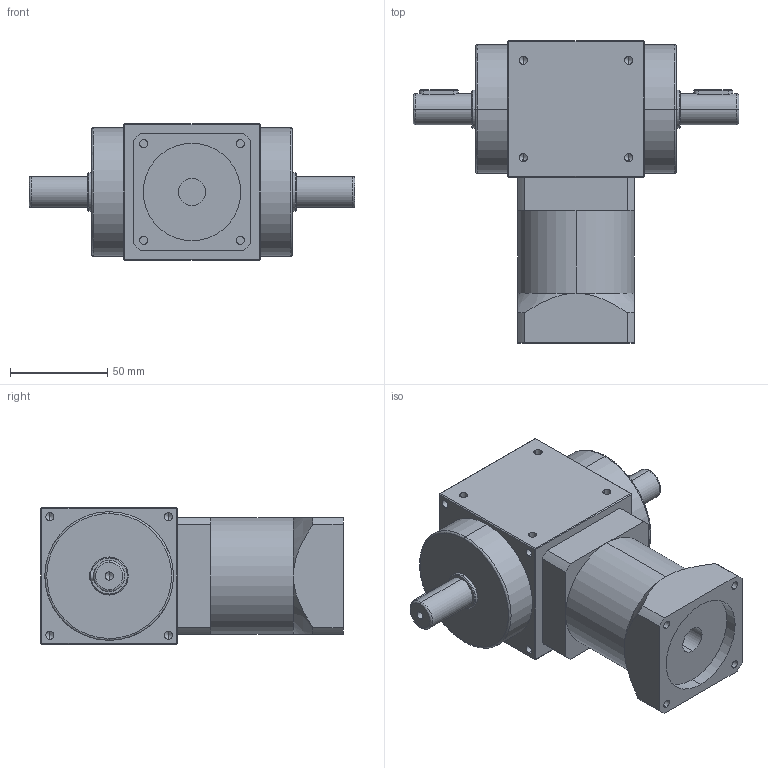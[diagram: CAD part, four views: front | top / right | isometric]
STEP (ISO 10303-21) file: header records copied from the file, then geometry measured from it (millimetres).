
FILE_DESCRIPTION (( 'STEP AP214' ), '1' );
FILE_NAME ('RXW070A-L1-2P-400W.STEP', '2020-12-04T01:55:56', ( '微软用户' ), ( '微软中国' ), 'SwSTEP 2.0', 'SolidWorks 2014', '' );
FILE_SCHEMA (( 'AUTOMOTIVE_DESIGN' ));
Length unit declared in the file: millimetre
Products named in the file (2): RXW070A-L1-2P-400W
Bounding box: 167 x 155 x 70 mm (x, y, z)
Volume: 718643.3 mm3; surface area: 63961.1 mm2
Topology: 1 solids, 1 shells, 223 faces, 518 edges, 282 vertices
Faces by surface type: cylinder 98, plane 61, cone 56, bspline 8
Entity records: 8582 total; most frequent: CARTESIAN_POINT 1441, DIRECTION 1036, ORIENTED_EDGE 948, EDGE_CURVE 474, AXIS2_PLACEMENT_3D 397, VERTEX_POINT 282, EDGE_LOOP 260, LINE 242
